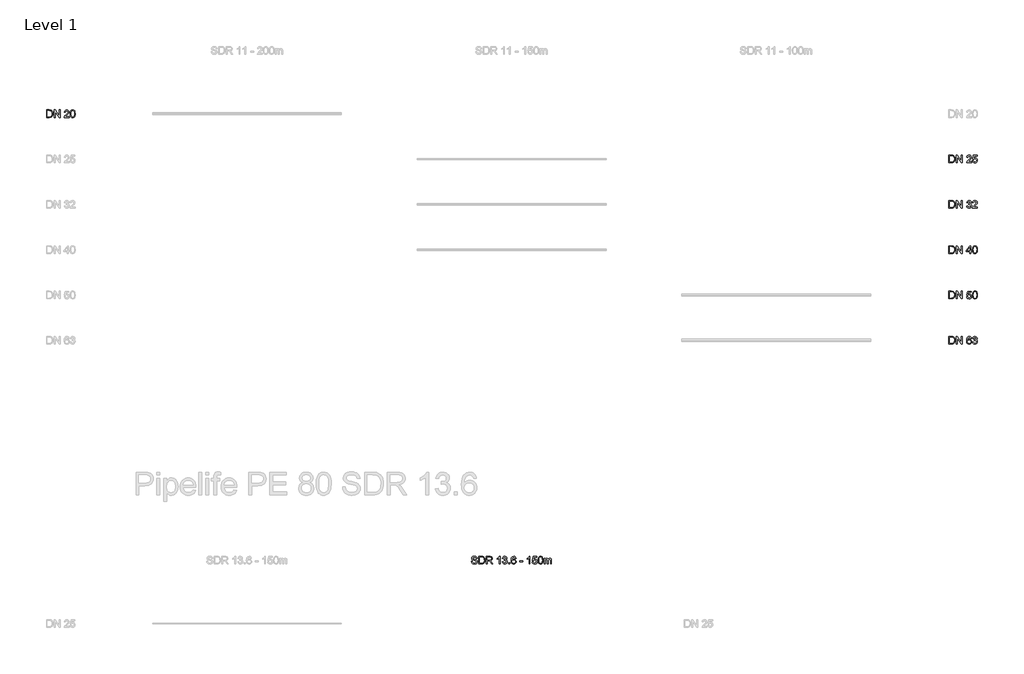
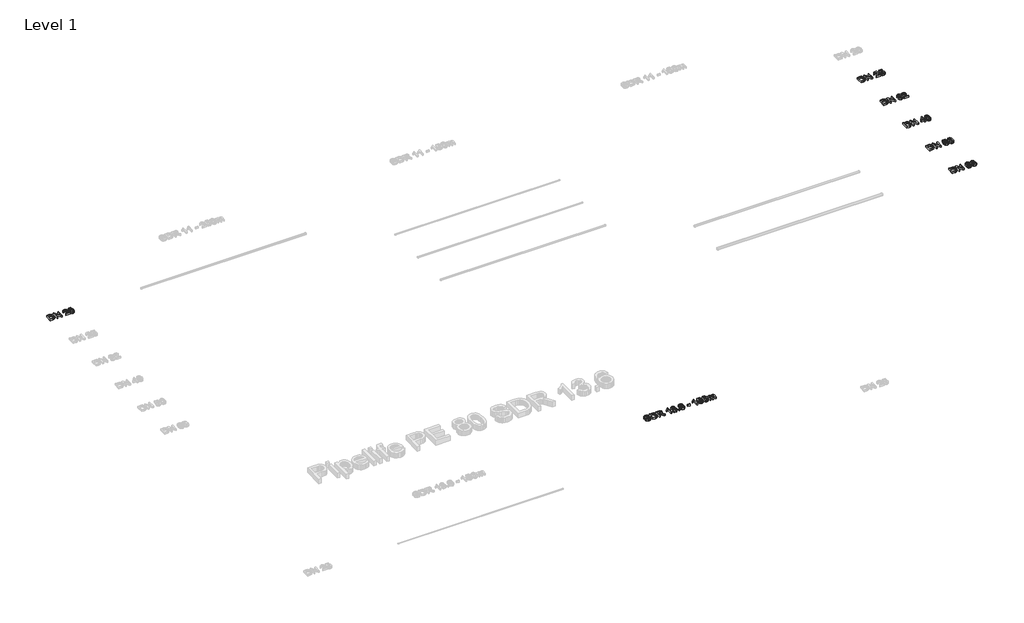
# One storey, part 4 of 6: 7 proxies.
"""IFC4 building model written with IfcOpenShell, lengths in millimetres."""

from ifc_helpers import new_model, si_unit, origin, origin_with_axes, place, context, project, spatial, polyline, outline, extrude, element, save

model = new_model("IFC4")

# Units and contexts
model_context = context("Model", 3, world=origin())
ifc_project = project(units=[si_unit("LENGTHUNIT", "METRE", prefix="MILLI")], contexts=[model_context])

# Site, building, storey
site = spatial("IfcSite", under=ifc_project)
building = spatial("IfcBuilding", under=site)
storey = spatial("IfcBuildingStorey", under=building, Name="Level 1", Elevation=0.0)

# Proxies
placement = place(None, origin())
element("IfcBuildingElementProxy", 1, Name="200mm Arial", ObjectType="200mm Arial", at=placement, inside=storey, context=model_context, shape_type="SweptSolid", body=[
    extrude(outline(polyline([(4539.3076926, -1913.949573), (4539.3076926, -1713.0369527), (4608.6166605, -1713.0369527), (4644.4728923, -1715.9309577), (4660.4880218, -1721.5105013), (4674.0015538, -1730.302881), (4687.8952305, -1745.606772), (4697.7912562, -1764.6385338), (4703.7141563, -1787.0302846), (4705.6884563, -1812.4141423), (4700.3419047, -1852.9547382), (4686.6076435, -1882.2136195), (4668.2625947, -1900.436041), (4644.2521631, -1910.5160077), (4611.9521239, -1913.949573), (4539.3076926, -1913.949573)]), holes=[polyline([(4564.4217702, -1888.8354954), (4608.8619152, -1888.8354954), (4641.1864798, -1885.2057264), (4659.8258342, -1874.9540815), (4668.5507689, -1864.0831685), (4675.1051998, -1850.0116822), (4679.207084, -1832.6783089), (4680.5743788, -1812.0217348), (4677.8949716, -1784.6513144), (4669.85675, -1764.4423301), (4657.9802929, -1750.5609162), (4643.7861793, -1742.1732067), (4608.1752021, -1738.1510302), (4564.4217702, -1738.1510302), (4564.4217702, -1888.8354954)])]), origin_with_axes(), (0.0, 0.0, 1.0), 50.0),
    extrude(outline(polyline([(4740.2203129, -1913.949573), (4740.2203129, -1713.0369527), (4767.100224, -1713.0369527), (4872.06922, -1872.2072292), (4872.06922, -1713.0369527), (4897.1832975, -1713.0369527), (4897.1832975, -1913.949573), (4870.3033864, -1913.949573), (4765.3343905, -1754.7302454), (4765.3343905, -1913.949573), (4740.2203129, -1913.949573)])), origin_with_axes(), (0.0, 0.0, 1.0), 50.0),
    extrude(outline(polyline([(5010.1966465, -1860.5821582), (5035.310724, -1857.4428985), (5040.9331872, -1873.2250361), (5049.1676125, -1883.8813512), (5060.4186702, -1889.9514041), (5075.0910304, -1891.9747551), (5092.3079078, -1889.1911147), (5105.6007105, -1880.8401934), (5114.0987846, -1868.3812565), (5116.931476, -1853.2735692), (5114.1233101, -1838.9323028), (5105.6988124, -1827.3011004), (5092.9455699, -1819.5939726), (5077.1511696, -1817.02493), (5059.5418847, -1819.7717822), (5062.3377879, -1794.6577047), (5066.3599644, -1794.9520102), (5081.406338, -1793.1493885), (5094.8585563, -1787.7415231), (5104.3499118, -1778.5935242), (5107.5136969, -1765.5705016), (5105.2205658, -1754.7241141), (5098.3411725, -1745.925603), (5087.8442729, -1740.0946734), (5074.6986229, -1738.1510302), (5061.5284475, -1740.1130675), (5050.7617678, -1745.9991794), (5042.9013558, -1755.809366), (5038.4499837, -1769.5436271), (5013.3359061, -1766.4043674), (5020.7303343, -1743.8532011), (5033.8882469, -1727.0164685), (5051.8899392, -1716.5318316), (5073.8157062, -1713.0369527), (5089.6039751, -1714.7598667), (5104.1046571, -1719.9286087), (5116.3306021, -1728.0833263), (5125.29466, -1738.7641669), (5130.7944958, -1751.0698196), (5132.6277745, -1764.0989736), (5130.8864663, -1776.2390794), (5125.662542, -1787.2510138), (5117.0295779, -1796.6320047), (5105.0611503, -1803.87928), (5120.7819742, -1810.2313758), (5132.4315707, -1821.0471064), (5139.6420578, -1835.7378608), (5142.0455535, -1853.7150276), (5137.2385621, -1878.191443), (5122.8175879, -1898.645682), (5101.0512365, -1912.478045), (5074.2081136, -1917.0888326), (5049.9279019, -1913.1524953), (5030.1603761, -1901.3434833), (5016.4138522, -1883.2804773), (5010.1966465, -1860.5821582)])), origin_with_axes(), (0.0, 0.0, 1.0), 50.0),
    extrude(outline(polyline([(5292.7300188, -1888.8354954), (5292.7300188, -1913.949573), (5160.8811117, -1913.949573), (5163.578913, -1896.6345937), (5178.833753, -1869.9754118), (5210.2754009, -1840.8636832), (5253.6364254, -1799.0232377), (5261.7666175, -1784.6022634), (5264.4766815, -1770.5736967), (5261.9199017, -1757.9982638), (5254.2495621, -1747.5442838), (5242.4589441, -1740.4993436), (5227.5413292, -1738.1510302), (5211.8756876, -1740.4441613), (5199.7049249, -1747.3235546), (5191.8506443, -1758.2496499), (5189.1344489, -1772.6828868), (5164.0203714, -1769.5436271), (5170.1088184, -1745.2511527), (5183.2728625, -1727.5069778), (5202.8257905, -1716.6544589), (5228.0808895, -1713.0369527), (5253.5199294, -1717.0591291), (5273.0360693, -1729.1256586), (5285.4520866, -1747.1518763), (5289.5907591, -1769.0531178), (5285.1271242, -1792.8673456), (5270.289217, -1817.4909138), (5234.3103579, -1851.9001431), (5205.4193586, -1876.0577275), (5194.0885931, -1888.8354954), (5292.7300188, -1888.8354954)])), origin_with_axes(), (0.0, 0.0, 1.0), 50.0),
])
element("IfcBuildingElementProxy", 2, Name="200mm Arial", ObjectType="200mm Arial", at=placement, inside=storey, context=model_context, shape_type="SweptSolid", body=[
    extrude(outline(polyline([(4539.3076926, -3113.949573), (4539.3076926, -2913.0369527), (4608.6166605, -2913.0369527), (4644.4728923, -2915.9309577), (4660.4880218, -2921.5105013), (4674.0015538, -2930.302881), (4687.8952305, -2945.606772), (4697.7912562, -2964.6385338), (4703.7141563, -2987.0302846), (4705.6884563, -3012.4141423), (4700.3419047, -3052.9547382), (4686.6076435, -3082.2136195), (4668.2625947, -3100.436041), (4644.2521631, -3110.5160077), (4611.9521239, -3113.949573), (4539.3076926, -3113.949573)]), holes=[polyline([(4564.4217702, -3088.8354954), (4608.8619152, -3088.8354954), (4641.1864798, -3085.2057264), (4659.8258342, -3074.9540815), (4668.5507689, -3064.0831685), (4675.1051998, -3050.0116822), (4679.207084, -3032.6783089), (4680.5743788, -3012.0217348), (4677.8949716, -2984.6513144), (4669.85675, -2964.4423301), (4657.9802929, -2950.5609162), (4643.7861793, -2942.1732067), (4608.1752021, -2938.1510302), (4564.4217702, -2938.1510302), (4564.4217702, -3088.8354954)])]), origin_with_axes(), (0.0, 0.0, 1.0), 50.0),
    extrude(outline(polyline([(4740.2203129, -3113.949573), (4740.2203129, -2913.0369527), (4767.100224, -2913.0369527), (4872.06922, -3072.2072292), (4872.06922, -2913.0369527), (4897.1832975, -2913.0369527), (4897.1832975, -3113.949573), (4870.3033864, -3113.949573), (4765.3343905, -2954.7302454), (4765.3343905, -3113.949573), (4740.2203129, -3113.949573)])), origin_with_axes(), (0.0, 0.0, 1.0), 50.0),
    extrude(outline(polyline([(5091.8173985, -3113.949573), (5091.8173985, -3066.8606776), (5000.7788674, -3066.8606776), (5000.7788674, -3041.7466), (5098.0959178, -2916.1762123), (5116.931476, -2916.1762123), (5116.931476, -3041.7466), (5142.0455535, -3041.7466), (5142.0455535, -3066.8606776), (5116.931476, -3066.8606776), (5116.931476, -3113.949573), (5091.8173985, -3113.949573)]), holes=[polyline([(5091.8173985, -3041.7466), (5091.8173985, -2964.1480245), (5031.680955, -3041.7466), (5091.8173985, -3041.7466)])]), origin_with_axes(), (0.0, 0.0, 1.0), 50.0),
    extrude(outline(polyline([(5164.0203714, -3015.1119436), (5165.8659127, -2982.9529258), (5171.4025367, -2957.3054194), (5180.5750612, -2937.7770168), (5193.3283037, -2923.9753106), (5209.7542347, -2915.7715422), (5229.9448249, -2913.0369527), (5245.4203942, -2914.6556334), (5259.2772827, -2919.5116758), (5270.8655655, -2927.4150073), (5279.5353179, -2938.1755557), (5291.3075417, -2967.9004209), (5295.8692784, -3015.1119436), (5294.0421312, -3047.0870203), (5288.5606895, -3072.6732131), (5279.4433474, -3092.2200098), (5266.708499, -3106.0768983), (5250.2457797, -3114.335849), (5229.9448249, -3117.0888326), (5203.8497287, -3112.3063667), (5184.0331519, -3097.9589689), (5175.2775604, -3082.8298218), (5169.0235665, -3063.9789353), (5164.0203714, -3015.1119436)]), holes=[polyline([(5189.1344489, -3015.0628927), (5192.0775049, -3054.5672876), (5200.9066728, -3077.4311536), (5214.0523227, -3088.3388547), (5229.9448249, -3091.9747551), (5245.8373271, -3088.326592), (5258.9829771, -3077.3821026), (5267.8121449, -3054.5059739), (5270.7552009, -3015.0628927), (5267.9102468, -2976.4475459), (5259.3753845, -2953.4058703), (5246.25426, -2941.9647402), (5229.6505193, -2938.1510302), (5213.9296954, -2941.5110191), (5201.2990802, -2951.5909857), (5192.1756067, -2976.0674012), (5189.1344489, -3015.0628927)])]), origin_with_axes(), (0.0, 0.0, 1.0), 50.0),
])
element("IfcBuildingElementProxy", 3, Name="200mm Arial", ObjectType="200mm Arial", at=placement, inside=storey, context=model_context, shape_type="SweptSolid", body=[
    extrude(outline(polyline([(4539.3076926, -4313.949573), (4539.3076926, -4113.0369527), (4608.6166605, -4113.0369527), (4644.4728923, -4115.9309577), (4660.4880218, -4121.5105013), (4674.0015538, -4130.302881), (4687.8952305, -4145.606772), (4697.7912562, -4164.6385338), (4703.7141563, -4187.0302846), (4705.6884563, -4212.4141423), (4700.3419047, -4252.9547382), (4686.6076435, -4282.2136195), (4668.2625947, -4300.436041), (4644.2521631, -4310.5160077), (4611.9521239, -4313.949573), (4539.3076926, -4313.949573)]), holes=[polyline([(4564.4217702, -4288.8354954), (4608.8619152, -4288.8354954), (4641.1864798, -4285.2057264), (4659.8258342, -4274.9540815), (4668.5507689, -4264.0831685), (4675.1051998, -4250.0116822), (4679.207084, -4232.6783089), (4680.5743788, -4212.0217348), (4677.8949716, -4184.6513144), (4669.85675, -4164.4423301), (4657.9802929, -4150.5609162), (4643.7861793, -4142.1732067), (4608.1752021, -4138.1510302), (4564.4217702, -4138.1510302), (4564.4217702, -4288.8354954)])]), origin_with_axes(), (0.0, 0.0, 1.0), 50.0),
    extrude(outline(polyline([(4740.2203129, -4313.949573), (4740.2203129, -4113.0369527), (4767.100224, -4113.0369527), (4872.06922, -4272.2072292), (4872.06922, -4113.0369527), (4897.1832975, -4113.0369527), (4897.1832975, -4313.949573), (4870.3033864, -4313.949573), (4765.3343905, -4154.7302454), (4765.3343905, -4313.949573), (4740.2203129, -4313.949573)])), origin_with_axes(), (0.0, 0.0, 1.0), 50.0),
    extrude(outline(polyline([(5010.1966465, -4260.5821582), (5035.310724, -4257.4428985), (5039.9215117, -4272.5199289), (5047.9658646, -4283.3172655), (5059.4069947, -4289.8103827), (5074.2081136, -4291.9747551), (5092.2098059, -4288.9642541), (5105.6988124, -4279.9327511), (5114.1233101, -4265.9225785), (5116.931476, -4247.9760685), (5114.3011197, -4231.0780222), (5106.4100509, -4218.1531014), (5093.1969559, -4209.9493329), (5074.6005211, -4207.2147434), (5052.5521268, -4211.5802764), (5038.4499837, -4222.9110419), (5013.3359061, -4219.7717822), (5035.310724, -4116.1762123), (5132.6277745, -4116.1762123), (5132.6277745, -4141.2902899), (5055.6178101, -4141.2902899), (5044.8756559, -4196.619742), (5062.8160345, -4185.7304349), (5081.6148045, -4182.1006659), (5105.0795444, -4186.601089), (5124.558896, -4200.1023582), (5137.6738892, -4220.6792244), (5142.0455535, -4246.4064386), (5138.1092162, -4271.5205162), (5126.3002041, -4293.0048247), (5115.8646182, -4303.5415782), (5103.6877242, -4311.0678307), (5089.769522, -4315.5835821), (5074.1100118, -4317.0888326), (5049.443524, -4313.2199403), (5029.7924941, -4301.6132634), (5016.3218817, -4283.6177025), (5010.1966465, -4260.5821582)])), origin_with_axes(), (0.0, 0.0, 1.0), 50.0),
    extrude(outline(polyline([(5164.0203714, -4215.1119436), (5165.8659127, -4182.9529258), (5171.4025367, -4157.3054194), (5180.5750612, -4137.7770168), (5193.3283037, -4123.9753106), (5209.7542347, -4115.7715422), (5229.9448249, -4113.0369527), (5245.4203942, -4114.6556334), (5259.2772827, -4119.5116758), (5270.8655655, -4127.4150073), (5279.5353179, -4138.1755557), (5291.3075417, -4167.9004209), (5295.8692784, -4215.1119436), (5294.0421312, -4247.0870203), (5288.5606895, -4272.6732131), (5279.4433474, -4292.2200098), (5266.708499, -4306.0768983), (5250.2457797, -4314.335849), (5229.9448249, -4317.0888326), (5203.8497287, -4312.3063667), (5184.0331519, -4297.9589689), (5175.2775604, -4282.8298218), (5169.0235665, -4263.9789353), (5164.0203714, -4215.1119436)]), holes=[polyline([(5189.1344489, -4215.0628927), (5192.0775049, -4254.5672876), (5200.9066728, -4277.4311536), (5214.0523227, -4288.3388547), (5229.9448249, -4291.9747551), (5245.8373271, -4288.326592), (5258.9829771, -4277.3821026), (5267.8121449, -4254.5059739), (5270.7552009, -4215.0628927), (5267.9102468, -4176.4475459), (5259.3753845, -4153.4058703), (5246.25426, -4141.9647402), (5229.6505193, -4138.1510302), (5213.9296954, -4141.5110191), (5201.2990802, -4151.5909857), (5192.1756067, -4176.0674012), (5189.1344489, -4215.0628927)])]), origin_with_axes(), (0.0, 0.0, 1.0), 50.0),
])
element("IfcBuildingElementProxy", 4, Name="200mm Arial", ObjectType="200mm Arial", at=placement, inside=storey, context=model_context, shape_type="SweptSolid", body=[
    extrude(outline(polyline([(4539.3076926, -5513.949573), (4539.3076926, -5313.0369527), (4608.6166605, -5313.0369527), (4644.4728923, -5315.9309577), (4660.4880218, -5321.5105013), (4674.0015538, -5330.302881), (4687.8952305, -5345.606772), (4697.7912562, -5364.6385338), (4703.7141563, -5387.0302846), (4705.6884563, -5412.4141423), (4700.3419047, -5452.9547382), (4686.6076435, -5482.2136195), (4668.2625947, -5500.436041), (4644.2521631, -5510.5160077), (4611.9521239, -5513.949573), (4539.3076926, -5513.949573)]), holes=[polyline([(4564.4217702, -5488.8354954), (4608.8619152, -5488.8354954), (4641.1864798, -5485.2057264), (4659.8258342, -5474.9540815), (4668.5507689, -5464.0831685), (4675.1051998, -5450.0116822), (4679.207084, -5432.6783089), (4680.5743788, -5412.0217348), (4677.8949716, -5384.6513144), (4669.85675, -5364.4423301), (4657.9802929, -5350.5609162), (4643.7861793, -5342.1732067), (4608.1752021, -5338.1510302), (4564.4217702, -5338.1510302), (4564.4217702, -5488.8354954)])]), origin_with_axes(), (0.0, 0.0, 1.0), 50.0),
    extrude(outline(polyline([(4740.2203129, -5513.949573), (4740.2203129, -5313.0369527), (4767.100224, -5313.0369527), (4872.06922, -5472.2072292), (4872.06922, -5313.0369527), (4897.1832975, -5313.0369527), (4897.1832975, -5513.949573), (4870.3033864, -5513.949573), (4765.3343905, -5354.7302454), (4765.3343905, -5513.949573), (4740.2203129, -5513.949573)])), origin_with_axes(), (0.0, 0.0, 1.0), 50.0),
    extrude(outline(polyline([(5138.9062938, -5366.4043674), (5113.7922163, -5369.5436271), (5104.2763354, -5348.5988789), (5092.8842562, -5340.7629924), (5079.1132069, -5338.1510302), (5056.451676, -5344.2333458), (5047.0155028, -5353.8411973), (5039.308375, -5367.066555), (5034.1028448, -5385.7733545), (5032.1714643, -5411.8255311), (5042.2452996, -5400.0717013), (5054.3179604, -5391.7882251), (5067.7149964, -5386.8770005), (5081.7619573, -5385.2399256), (5104.9630484, -5389.7158232), (5124.4362687, -5403.143516), (5137.6432323, -5423.6590686), (5142.0455535, -5449.3985455), (5139.9731516, -5467.3818437), (5133.7559459, -5484.0530295), (5123.9089712, -5498.1919608), (5110.9472622, -5508.5784958), (5095.4594302, -5514.9612484), (5078.0340864, -5517.0888326), (5049.5416258, -5511.4479754), (5026.8494381, -5494.5254036), (5018.1904156, -5481.4165418), (5012.0053996, -5464.6533856), (5007.0573868, -5420.1641897), (5012.5510912, -5370.144501), (5019.4182218, -5351.0667539), (5029.0322046, -5335.9437382), (5039.4524621, -5325.9220195), (5051.53432, -5318.763649), (5080.6828367, -5313.0369527), (5102.7189682, -5316.5808825), (5120.3650413, -5327.2126722), (5132.7258763, -5344.0984558), (5138.9062938, -5366.4043674)]), holes=[polyline([(5032.1714643, -5449.0061381), (5037.9839998, -5470.7602267), (5053.4350436, -5486.554627), (5076.0720491, -5491.9747551), (5092.6451329, -5489.1665892), (5105.6742869, -5480.7420915), (5114.1171787, -5467.4983397), (5116.931476, -5450.2324114), (5114.1539669, -5433.6593275), (5105.8214397, -5421.022581), (5092.5715565, -5413.0211476), (5075.0419795, -5410.3540031), (5058.4934211, -5413.0211476), (5044.6549267, -5421.022581), (5035.2923299, -5433.3527592), (5032.1714643, -5449.0061381)])]), origin_with_axes(), (0.0, 0.0, 1.0), 50.0),
    extrude(outline(polyline([(5164.0203714, -5460.5821582), (5189.1344489, -5457.4428985), (5194.7569121, -5473.2250361), (5202.9913374, -5483.8813512), (5214.2423951, -5489.9514041), (5228.9147553, -5491.9747551), (5246.1316327, -5489.1911147), (5259.4244355, -5480.8401934), (5267.9225095, -5468.3812565), (5270.7552009, -5453.2735692), (5267.947035, -5438.9323028), (5259.5225373, -5427.3011004), (5246.7692948, -5419.5939726), (5230.9748945, -5417.02493), (5213.3656097, -5419.7717822), (5216.1615128, -5394.6577047), (5220.1836893, -5394.9520102), (5235.2300629, -5393.1493885), (5248.6822812, -5387.7415231), (5258.1736367, -5378.5935242), (5261.3374218, -5365.5705016), (5259.0442907, -5354.7241141), (5252.1648974, -5345.925603), (5241.6679978, -5340.0946734), (5228.5223479, -5338.1510302), (5215.3521724, -5340.1130675), (5204.5854927, -5345.9991794), (5196.7250807, -5355.809366), (5192.2737086, -5369.5436271), (5167.1596311, -5366.4043674), (5174.5540592, -5343.8532011), (5187.7119719, -5327.0164685), (5205.7136642, -5316.5318316), (5227.6394311, -5313.0369527), (5243.4277, -5314.7598667), (5257.928382, -5319.9286087), (5270.154327, -5328.0833263), (5279.1183849, -5338.7641669), (5284.6182208, -5351.0698196), (5286.4514994, -5364.0989736), (5284.7101913, -5376.2390794), (5279.4862669, -5387.2510138), (5270.8533028, -5396.6320047), (5258.8848752, -5403.87928), (5274.6056991, -5410.2313758), (5286.2552956, -5421.0471064), (5293.4657827, -5435.7378608), (5295.8692784, -5453.7150276), (5291.062287, -5478.191443), (5276.6413128, -5498.645682), (5254.8749614, -5512.478045), (5228.0318385, -5517.0888326), (5203.7516269, -5513.1524953), (5183.984101, -5501.3434833), (5170.2375771, -5483.2804773), (5164.0203714, -5460.5821582)])), origin_with_axes(), (0.0, 0.0, 1.0), 50.0),
])
element("IfcBuildingElementProxy", 5, Name="200mm Arial", ObjectType="200mm Arial", at=placement, inside=storey, context=model_context, shape_type="SweptSolid", body=[
    extrude(outline(polyline([(-19337.4878779, 486.050427), (-19337.4878779, 686.9630473), (-19268.17891, 686.9630473), (-19232.3226782, 684.0690423), (-19216.3075487, 678.4894987), (-19202.7940167, 669.697119), (-19188.90034, 654.393228), (-19179.0043144, 635.3614662), (-19173.0814143, 612.9697154), (-19171.1071142, 587.5858577), (-19176.4536659, 547.0452618), (-19190.187927, 517.7863805), (-19208.5329759, 499.563959), (-19232.5434074, 489.4839923), (-19264.8434466, 486.050427), (-19337.4878779, 486.050427)]), holes=[polyline([(-19312.3738004, 511.1645046), (-19267.9336553, 511.1645046), (-19235.6090907, 514.7942736), (-19216.9697363, 525.0459185), (-19208.2448016, 535.9168315), (-19201.6903707, 549.9883178), (-19197.5884865, 567.3216911), (-19196.2211917, 587.9782652), (-19198.9005989, 615.3486856), (-19206.9388205, 635.5576699), (-19218.8152776, 649.4390838), (-19233.0093913, 657.8267933), (-19268.6203684, 661.8489698), (-19312.3738004, 661.8489698), (-19312.3738004, 511.1645046)])]), origin_with_axes(), (0.0, 0.0, 1.0), 50.0),
    extrude(outline(polyline([(-19136.5752576, 486.050427), (-19136.5752576, 686.9630473), (-19109.6953465, 686.9630473), (-19004.7263505, 527.7927708), (-19004.7263505, 686.9630473), (-18979.612273, 686.9630473), (-18979.612273, 486.050427), (-19006.4921841, 486.050427), (-19111.4611801, 645.2697546), (-19111.4611801, 486.050427), (-19136.5752576, 486.050427)])), origin_with_axes(), (0.0, 0.0, 1.0), 50.0),
    extrude(outline(polyline([(-18737.8892767, 511.1645046), (-18737.8892767, 486.050427), (-18869.7381838, 486.050427), (-18867.0403825, 503.3654063), (-18851.7855424, 530.0245882), (-18820.3438945, 559.1363168), (-18776.98287, 600.9767623), (-18768.852678, 615.3977366), (-18766.1426139, 629.4263033), (-18768.6993938, 642.0017362), (-18776.3697334, 652.4557162), (-18788.1603513, 659.5006564), (-18803.0779662, 661.8489698), (-18818.7436079, 659.5558387), (-18830.9143705, 652.6764454), (-18838.7686511, 641.7503501), (-18841.4848465, 627.3171132), (-18866.5989241, 630.4563729), (-18860.510477, 654.7488473), (-18847.346433, 672.4930222), (-18827.7935049, 683.3455411), (-18802.538406, 686.9630473), (-18777.099366, 682.9408709), (-18757.5832262, 670.8743414), (-18745.1672088, 652.8481237), (-18741.0285364, 630.9468822), (-18745.4921713, 607.1326544), (-18760.3300784, 582.5090862), (-18796.3089375, 548.0998569), (-18825.1999369, 523.9422725), (-18836.5307023, 511.1645046), (-18737.8892767, 511.1645046)])), origin_with_axes(), (0.0, 0.0, 1.0), 50.0),
    extrude(outline(polyline([(-18712.7751992, 584.8880564), (-18710.9296578, 617.0470742), (-18705.3930338, 642.6945806), (-18696.2205094, 662.2229832), (-18683.4672669, 676.0246894), (-18667.0413358, 684.2284578), (-18646.8507456, 686.9630473), (-18631.3751764, 685.3443666), (-18617.5182879, 680.4883242), (-18605.930005, 672.5849927), (-18597.2602527, 661.8244443), (-18585.4880288, 632.0995791), (-18580.9262921, 584.8880564), (-18582.7534393, 552.9129797), (-18588.2348811, 527.3267869), (-18597.3522232, 507.7799902), (-18610.0870716, 493.9231017), (-18626.5497909, 485.664151), (-18646.8507456, 482.9111674), (-18672.9458418, 487.6936333), (-18692.7624186, 502.0410311), (-18701.5180101, 517.1701782), (-18707.772004, 536.0210647), (-18712.7751992, 584.8880564)]), holes=[polyline([(-18687.6611216, 584.9371073), (-18684.7180657, 545.4327124), (-18675.8888978, 522.5688464), (-18662.7432478, 511.6611453), (-18646.8507456, 508.0252449), (-18630.9582434, 511.673408), (-18617.8125935, 522.6178974), (-18608.9834256, 545.4940261), (-18606.0403696, 584.9371073), (-18608.8853237, 623.5524541), (-18617.420186, 646.5941297), (-18630.5413105, 658.0352598), (-18647.1450512, 661.8489698), (-18662.8658751, 658.4889809), (-18675.4964903, 648.4090143), (-18684.6199638, 623.9325988), (-18687.6611216, 584.9371073)])]), origin_with_axes(), (0.0, 0.0, 1.0), 50.0),
])
element("IfcBuildingElementProxy", 6, Name="200mm Arial", ObjectType="200mm Arial", at=placement, inside=storey, context=model_context, shape_type="SweptSolid", body=[
    extrude(outline(polyline([(4539.3076926, -713.949573), (4539.3076926, -513.0369527), (4608.6166605, -513.0369527), (4644.4728923, -515.9309577), (4660.4880218, -521.5105013), (4674.0015538, -530.302881), (4687.8952305, -545.606772), (4697.7912562, -564.6385338), (4703.7141563, -587.0302846), (4705.6884563, -612.4141423), (4700.3419047, -652.9547382), (4686.6076435, -682.2136195), (4668.2625947, -700.436041), (4644.2521631, -710.5160077), (4611.9521239, -713.949573), (4539.3076926, -713.949573)]), holes=[polyline([(4564.4217702, -688.8354954), (4608.8619152, -688.8354954), (4641.1864798, -685.2057264), (4659.8258342, -674.9540815), (4668.5507689, -664.0831685), (4675.1051998, -650.0116822), (4679.207084, -632.6783089), (4680.5743788, -612.0217348), (4677.8949716, -584.6513144), (4669.85675, -564.4423301), (4657.9802929, -550.5609162), (4643.7861793, -542.1732067), (4608.1752021, -538.1510302), (4564.4217702, -538.1510302), (4564.4217702, -688.8354954)])]), origin_with_axes(), (0.0, 0.0, 1.0), 50.0),
    extrude(outline(polyline([(4740.2203129, -713.949573), (4740.2203129, -513.0369527), (4767.100224, -513.0369527), (4872.06922, -672.2072292), (4872.06922, -513.0369527), (4897.1832975, -513.0369527), (4897.1832975, -713.949573), (4870.3033864, -713.949573), (4765.3343905, -554.7302454), (4765.3343905, -713.949573), (4740.2203129, -713.949573)])), origin_with_axes(), (0.0, 0.0, 1.0), 50.0),
    extrude(outline(polyline([(5138.9062938, -688.8354954), (5138.9062938, -713.949573), (5007.0573868, -713.949573), (5009.7551881, -696.6345937), (5025.0100281, -669.9754118), (5056.451676, -640.8636832), (5099.8127005, -599.0232377), (5107.9428926, -584.6022634), (5110.6529566, -570.5736967), (5108.0961767, -557.9982638), (5100.4258371, -547.5442838), (5088.6352192, -540.4993436), (5073.7176043, -538.1510302), (5058.0519627, -540.4441613), (5045.8812, -547.3235546), (5038.0269194, -558.2496499), (5035.310724, -572.6828868), (5010.1966465, -569.5436271), (5016.2850935, -545.2511527), (5029.4491375, -527.5069778), (5049.0020656, -516.6544589), (5074.2571645, -513.0369527), (5099.6962045, -517.0591291), (5119.2123444, -529.1256586), (5131.6283617, -547.1518763), (5135.7670341, -569.0531178), (5131.3033993, -592.8673456), (5116.4654921, -617.4909138), (5080.486633, -651.9001431), (5051.5956336, -676.0577275), (5040.2648682, -688.8354954), (5138.9062938, -688.8354954)])), origin_with_axes(), (0.0, 0.0, 1.0), 50.0),
    extrude(outline(polyline([(5164.0203714, -660.5821582), (5189.1344489, -657.4428985), (5193.7452366, -672.5199289), (5201.7895895, -683.3172655), (5213.2307196, -689.8103827), (5228.0318385, -691.9747551), (5246.0335308, -688.9642541), (5259.5225373, -679.9327511), (5267.947035, -665.9225785), (5270.7552009, -647.9760685), (5268.1248446, -631.0780222), (5260.2337758, -618.1531014), (5247.0206809, -609.9493329), (5228.424246, -607.2147434), (5206.3758518, -611.5802764), (5192.2737086, -622.9110419), (5167.1596311, -619.7717822), (5189.1344489, -516.1762123), (5286.4514994, -516.1762123), (5286.4514994, -541.2902899), (5209.441535, -541.2902899), (5198.6993808, -596.619742), (5216.6397594, -585.7304349), (5235.4385294, -582.1006659), (5258.9032693, -586.601089), (5278.3826209, -600.1023582), (5291.4976141, -620.6792244), (5295.8692784, -646.4064386), (5291.9329411, -671.5205162), (5280.123929, -693.0048247), (5269.6883431, -703.5415782), (5257.5114491, -711.0678307), (5243.5932469, -715.5835821), (5227.9337367, -717.0888326), (5203.2672489, -713.2199403), (5183.616219, -701.6132634), (5170.1456066, -683.6177025), (5164.0203714, -660.5821582)])), origin_with_axes(), (0.0, 0.0, 1.0), 50.0),
])
element("IfcBuildingElementProxy", 7, Name="200mm Arial", ObjectType="200mm Arial", at=placement, inside=storey, context=model_context, shape_type="SweptSolid", body=[
    extrude(outline(polyline([(-8095.306531, -11268.9871574), (-8070.1924535, -11268.9871574), (-8062.0990496, -11294.1257604), (-8053.9688575, -11303.016242), (-8042.3315237, -11310.0182626), (-8028.1067532, -11314.5616053), (-8012.214251, -11316.0760528), (-7985.9720021, -11311.4897906), (-7969.0249048, -11298.8837009), (-7963.4576239, -11282.0347055), (-7967.6269532, -11266.3629325), (-7973.979049, -11260.1641209), (-7984.6966778, -11254.9585907), (-8021.2641481, -11245.3691333), (-8060.6275216, -11232.9837728), (-8073.1293781, -11224.5347497), (-8081.9892028, -11214.2953675), (-8087.2683094, -11202.4863554), (-8089.0280116, -11189.3284427), (-8086.8513765, -11174.6192943), (-8080.3214711, -11160.9034272), (-8069.6099737, -11149.2783562), (-8054.8885625, -11140.8415958), (-8037.217964, -11135.7096419), (-8017.6589046, -11133.9989907), (-7996.4689016, -11135.7893497), (-7977.9276491, -11141.1604268), (-7962.6973345, -11150.0018575), (-7951.4401454, -11162.203277), (-7944.3154975, -11177.0043959), (-7941.4828061, -11193.6449248), (-7966.5968836, -11193.6449248), (-7971.2076713, -11178.6598649), (-7980.8216541, -11167.8441342), (-7995.8435023, -11161.2958347), (-8016.6778859, -11159.1130682), (-8038.0027789, -11161.2713092), (-8052.6322196, -11167.7460324), (-8061.0935055, -11177.274176), (-8063.9139341, -11188.5926788), (-8061.9151086, -11198.2434498), (-8055.9186321, -11206.0057599), (-8041.7429125, -11212.9464668), (-8014.9120523, -11220.0343266), (-7970.4719073, -11232.6404163), (-7956.1551663, -11241.7516271), (-7946.1671702, -11252.9965534), (-7940.2994523, -11266.2525679), (-7938.3435464, -11281.3970434), (-7940.5937579, -11296.878744), (-7947.3443926, -11311.4407397), (-7958.3195387, -11323.973253), (-7973.243285, -11333.3665066), (-7991.189795, -11339.2342244), (-8011.2332324, -11341.1901304), (-8035.8384065, -11339.0809402), (-8056.0903103, -11332.7533699), (-8072.2219358, -11322.1828939), (-8084.4662749, -11307.3449868), (-8092.3266869, -11289.2697181), (-8095.306531, -11268.9871574)])), origin_with_axes(), (0.0, 0.0, 1.0), 50.0),
    extrude(outline(polyline([(-7900.6724301, -11338.0508707), (-7900.6724301, -11137.1382504), (-7831.3634622, -11137.1382504), (-7795.5072304, -11140.0322554), (-7779.4921009, -11145.611799), (-7765.9785689, -11154.4041787), (-7752.0848923, -11169.7080697), (-7742.1888666, -11188.7398315), (-7736.2659665, -11211.1315823), (-7734.2916664, -11236.51544), (-7739.6382181, -11277.0560359), (-7753.3724792, -11306.3149172), (-7771.7175281, -11324.5373387), (-7795.7279596, -11334.6173054), (-7828.0279988, -11338.0508707), (-7900.6724301, -11338.0508707)]), holes=[polyline([(-7875.5583526, -11312.9367931), (-7831.1182075, -11312.9367931), (-7798.7936429, -11309.3070241), (-7780.1542885, -11299.0553792), (-7771.4293538, -11288.1844662), (-7764.8749229, -11274.1129799), (-7760.7730387, -11256.7796066), (-7759.405744, -11236.1230325), (-7762.0851512, -11208.7526121), (-7770.1233727, -11188.5436278), (-7781.9998298, -11174.6622139), (-7796.1939435, -11166.2745044), (-7831.8049206, -11162.2523279), (-7875.5583526, -11162.2523279), (-7875.5583526, -11312.9367931)])]), origin_with_axes(), (0.0, 0.0, 1.0), 50.0),
    extrude(outline(polyline([(-7699.7598098, -11338.0508707), (-7699.7598098, -11137.1382504), (-7613.1849136, -11137.1382504), (-7589.9163774, -11138.4932824), (-7572.9876743, -11142.5583784), (-7560.6145765, -11150.0631711), (-7551.0128564, -11161.7372931), (-7544.850833, -11176.2134496), (-7542.7968252, -11192.1243459), (-7546.1997336, -11211.9163972), (-7556.408459, -11228.3239342), (-7573.7295696, -11240.3536755), (-7598.4696338, -11247.0123396), (-7584.1958124, -11257.7544938), (-7563.8396753, -11283.6043354), (-7530.3378883, -11338.0508707), (-7559.5231932, -11338.0508707), (-7585.6673404, -11296.4066288), (-7604.5519495, -11268.8400046), (-7617.8202267, -11255.816982), (-7629.7641289, -11251.0345161), (-7644.3322559, -11250.1515993), (-7674.6457323, -11250.1515993), (-7674.6457323, -11338.0508707), (-7699.7598098, -11338.0508707)]), holes=[polyline([(-7674.6457323, -11225.0375217), (-7618.4333634, -11225.0375217), (-7589.7630932, -11221.4813291), (-7580.3330514, -11216.8582787), (-7573.4781836, -11210.1015127), (-7567.9109027, -11193.0563136), (-7570.5657845, -11180.8058432), (-7578.5304297, -11170.934343), (-7592.234034, -11164.4228317), (-7612.1057931, -11162.2523279), (-7674.6457323, -11162.2523279), (-7674.6457323, -11225.0375217)])]), origin_with_axes(), (0.0, 0.0, 1.0), 50.0),
    extrude(outline(polyline([(-7335.6056855, -11338.0508707), (-7360.719763, -11338.0508707), (-7360.719763, -11181.4802935), (-7384.5094654, -11198.4273908), (-7410.9479181, -11211.1070569), (-7410.9479181, -11187.3664054), (-7374.1351931, -11163.8710087), (-7360.6645807, -11150.2961631), (-7351.7924933, -11137.1382504), (-7335.6056855, -11137.1382504), (-7335.6056855, -11338.0508707)])), origin_with_axes(), (0.0, 0.0, 1.0), 50.0),
    extrude(outline(polyline([(-7275.9597514, -11284.6834559), (-7250.8456738, -11281.5441962), (-7245.2232107, -11297.3263338), (-7236.9887853, -11307.9826489), (-7225.7377277, -11314.0527018), (-7211.0653674, -11316.0760528), (-7193.84849, -11313.2924124), (-7180.5556873, -11304.9414911), (-7172.0576132, -11292.4825542), (-7169.2249218, -11277.3748669), (-7172.0330877, -11263.0336005), (-7180.4575854, -11251.4023981), (-7193.2108279, -11243.6952703), (-7209.0052282, -11241.1262277), (-7226.6145131, -11243.8730799), (-7223.8186099, -11218.7590024), (-7219.7964334, -11219.053308), (-7204.7500598, -11217.2506862), (-7191.2978415, -11211.8428208), (-7181.8064861, -11202.6948219), (-7178.6427009, -11189.6717993), (-7180.935832, -11178.8254118), (-7187.8152253, -11170.0269007), (-7198.3121249, -11164.1959711), (-7211.4577749, -11162.2523279), (-7224.6279503, -11164.2143652), (-7235.39463, -11170.1004771), (-7243.255042, -11179.9106637), (-7247.7064141, -11193.6449248), (-7272.8204917, -11190.5056651), (-7265.4260636, -11167.9544988), (-7252.2681509, -11151.1177662), (-7234.2664586, -11140.6331293), (-7212.3406917, -11137.1382504), (-7196.5524227, -11138.8611644), (-7182.0517407, -11144.0299064), (-7169.8257958, -11152.184624), (-7160.8617378, -11162.8654646), (-7155.361902, -11175.1711173), (-7153.5286234, -11188.2002713), (-7155.2699315, -11200.3403771), (-7160.4938558, -11211.3523115), (-7169.12682, -11220.7333024), (-7181.0952475, -11227.9805777), (-7165.3744236, -11234.3326735), (-7153.7248271, -11245.1484041), (-7146.51434, -11259.8391585), (-7144.1108443, -11277.8163253), (-7148.9178357, -11302.2927407), (-7163.3388099, -11322.7469797), (-7185.1051613, -11336.5793427), (-7211.9482842, -11341.1901304), (-7236.2284959, -11337.253793), (-7255.9960218, -11325.444781), (-7269.7425456, -11307.381775), (-7275.9597514, -11284.6834559)])), origin_with_axes(), (0.0, 0.0, 1.0), 50.0),
    extrude(outline(polyline([(-7109.5789877, -11338.0508707), (-7109.5789877, -11312.9367931), (-7084.4649101, -11312.9367931), (-7084.4649101, -11338.0508707), (-7109.5789877, -11338.0508707)])), origin_with_axes(), (0.0, 0.0, 1.0), 50.0),
    extrude(outline(polyline([(-6914.9448868, -11190.5056651), (-6940.0589643, -11193.6449248), (-6949.5748452, -11172.7001766), (-6960.9669244, -11164.8642901), (-6974.7379737, -11162.2523279), (-6997.3995046, -11168.3346435), (-7006.8356778, -11177.942495), (-7014.5428056, -11191.1678527), (-7019.7483358, -11209.8746522), (-7021.6797163, -11235.9268288), (-7011.605881, -11224.1729991), (-6999.5332202, -11215.8895228), (-6986.1361842, -11210.9782982), (-6972.0892233, -11209.3412233), (-6948.8881322, -11213.8171209), (-6929.4149119, -11227.2448137), (-6916.2079483, -11247.7603663), (-6911.8056271, -11273.4998432), (-6913.878029, -11291.4831414), (-6920.0952347, -11308.1543272), (-6929.9422094, -11322.2932585), (-6942.9039184, -11332.6797935), (-6958.3917504, -11339.0625461), (-6975.8170942, -11341.1901304), (-7004.3095548, -11335.5492731), (-7027.0017425, -11318.6267013), (-7035.660765, -11305.5178396), (-7041.845781, -11288.7546833), (-7046.7937938, -11244.2654874), (-7041.3000894, -11194.2457987), (-7034.4329588, -11175.1680516), (-7024.818976, -11160.0450359), (-7014.3987185, -11150.0233172), (-7002.3168606, -11142.8649468), (-6973.1683439, -11137.1382504), (-6951.1322124, -11140.6821802), (-6933.4861393, -11151.3139699), (-6921.1253043, -11168.1997535), (-6914.9448868, -11190.5056651)]), holes=[polyline([(-7021.6797163, -11273.1074358), (-7015.8671808, -11294.8615244), (-7000.416137, -11310.6559248), (-6977.7791315, -11316.0760528), (-6961.2060477, -11313.2678869), (-6948.1768937, -11304.8433892), (-6939.7340019, -11291.5996374), (-6936.9197046, -11274.3337091), (-6939.6972137, -11257.7606252), (-6948.0297409, -11245.1238787), (-6961.2796241, -11237.1224453), (-6978.8092011, -11234.4553008), (-6995.3577595, -11237.1224453), (-7009.1962539, -11245.1238787), (-7018.5588507, -11257.4540569), (-7021.6797163, -11273.1074358)])]), origin_with_axes(), (0.0, 0.0, 1.0), 50.0),
    extrude(outline(polyline([(-6817.6278363, -11278.4049365), (-6817.6278363, -11253.290859), (-6739.146344, -11253.290859), (-6739.146344, -11278.4049365), (-6817.6278363, -11278.4049365)])), origin_with_axes(), (0.0, 0.0, 1.0), 50.0),
    extrude(outline(polyline([(-6544.5122431, -11338.0508707), (-6569.6263206, -11338.0508707), (-6569.6263206, -11181.4802935), (-6593.416023, -11198.4273908), (-6619.8544757, -11211.1070569), (-6619.8544757, -11187.3664054), (-6583.0417507, -11163.8710087), (-6569.5711383, -11150.2961631), (-6560.6990509, -11137.1382504), (-6544.5122431, -11137.1382504), (-6544.5122431, -11338.0508707)])), origin_with_axes(), (0.0, 0.0, 1.0), 50.0),
    extrude(outline(polyline([(-6484.8663089, -11284.6834559), (-6459.7522314, -11281.5441962), (-6455.1414437, -11296.6212266), (-6447.0970908, -11307.4185632), (-6435.6559607, -11313.9116804), (-6420.8548418, -11316.0760528), (-6402.8531495, -11313.0655518), (-6389.364143, -11304.0340488), (-6380.9396453, -11290.0238762), (-6378.1314794, -11272.0773662), (-6380.7618357, -11255.1793199), (-6388.6529045, -11242.2543991), (-6401.8659995, -11234.0506306), (-6420.4624343, -11231.3160411), (-6442.5108286, -11235.6815741), (-6456.6129717, -11247.0123396), (-6481.7270492, -11243.8730799), (-6459.7522314, -11140.2775101), (-6362.4351809, -11140.2775101), (-6362.4351809, -11165.3915876), (-6439.4451453, -11165.3915876), (-6450.1872995, -11220.7210397), (-6432.2469209, -11209.8317326), (-6413.4481509, -11206.2019636), (-6389.983411, -11210.7023867), (-6370.5040594, -11224.2036559), (-6357.3890662, -11244.7805221), (-6353.0174019, -11270.5077363), (-6356.9537392, -11295.6218139), (-6368.7627513, -11317.1061224), (-6379.1983372, -11327.6428759), (-6391.3752312, -11335.1691284), (-6405.2934334, -11339.6848799), (-6420.9529436, -11341.1901304), (-6445.6194314, -11337.321238), (-6465.2704613, -11325.7145611), (-6478.7410737, -11307.7190002), (-6484.8663089, -11284.6834559)])), origin_with_axes(), (0.0, 0.0, 1.0), 50.0),
    extrude(outline(polyline([(-6331.042584, -11239.2132413), (-6329.1970427, -11207.0542235), (-6323.6604186, -11181.4067171), (-6314.4878942, -11161.8783145), (-6301.7346517, -11148.0766083), (-6285.3087206, -11139.8728399), (-6265.1181305, -11137.1382504), (-6249.6425612, -11138.7569311), (-6235.7856727, -11143.6129735), (-6224.1973899, -11151.516305), (-6215.5276375, -11162.2768534), (-6203.7554137, -11192.0017186), (-6199.1936769, -11239.2132413), (-6201.0208242, -11271.188318), (-6206.5022659, -11296.7745108), (-6215.619608, -11316.3213075), (-6228.3544564, -11330.178196), (-6244.8171757, -11338.4371468), (-6265.1181305, -11341.1901304), (-6291.2132267, -11336.4076644), (-6311.0298035, -11322.0602666), (-6319.785395, -11306.9311195), (-6326.0393889, -11288.080233), (-6331.042584, -11239.2132413)]), holes=[polyline([(-6305.9285065, -11239.1641904), (-6302.9854505, -11278.6685853), (-6294.1562826, -11301.5324513), (-6281.0106327, -11312.4401524), (-6265.1181305, -11316.0760528), (-6249.2256283, -11312.4278897), (-6236.0799783, -11301.4834003), (-6227.2508104, -11278.6072716), (-6224.3077545, -11239.1641904), (-6227.1527086, -11200.5488436), (-6235.6875709, -11177.507168), (-6248.8086954, -11166.0660379), (-6265.4124361, -11162.2523279), (-6281.13326, -11165.6123168), (-6293.7638752, -11175.6922835), (-6302.8873487, -11200.1686989), (-6305.9285065, -11239.1641904)])]), origin_with_axes(), (0.0, 0.0, 1.0), 50.0),
    extrude(outline(polyline([(-6170.9403397, -11338.0508707), (-6170.9403397, -11190.5056651), (-6145.8262622, -11190.5056651), (-6145.8262622, -11214.7858768), (-6138.2724185, -11203.632921), (-6128.5603339, -11194.8957236), (-6117.021102, -11189.248735), (-6103.9858166, -11187.3664054), (-6090.0185635, -11189.2855232), (-6078.8226881, -11195.0428764), (-6070.4595041, -11204.2583204), (-6064.9903251, -11216.5517104), (-6055.8361948, -11203.7831395), (-6045.3944775, -11194.6627317), (-6033.6651732, -11189.190487), (-6020.648282, -11187.3664054), (-6001.7698042, -11190.4014319), (-5987.8086825, -11199.5065113), (-5979.1818497, -11214.9268982), (-5976.3062388, -11236.9078475), (-5976.3062388, -11338.0508707), (-6001.4203163, -11338.0508707), (-6001.4203163, -11247.6990526), (-6003.7502356, -11226.7297789), (-6012.1869961, -11216.4045576), (-6026.5343939, -11212.480483), (-6040.1398963, -11214.9943433), (-6051.2315385, -11222.5359242), (-6058.6075725, -11235.6202605), (-6061.0662505, -11254.762387), (-6061.0662505, -11338.0508707), (-6086.180328, -11338.0508707), (-6086.180328, -11244.9031495), (-6087.6334619, -11230.7029045), (-6091.9928635, -11220.5738869), (-6099.6632031, -11214.5038339), (-6111.0491509, -11212.480483), (-6129.6394544, -11217.8760856), (-6136.9970943, -11224.5224869), (-6142.0002894, -11233.6704859), (-6145.8262622, -11263.6406058), (-6145.8262622, -11338.0508707), (-6170.9403397, -11338.0508707)])), origin_with_axes(), (0.0, 0.0, 1.0), 50.0),
])

save(model, "model.ifc")
